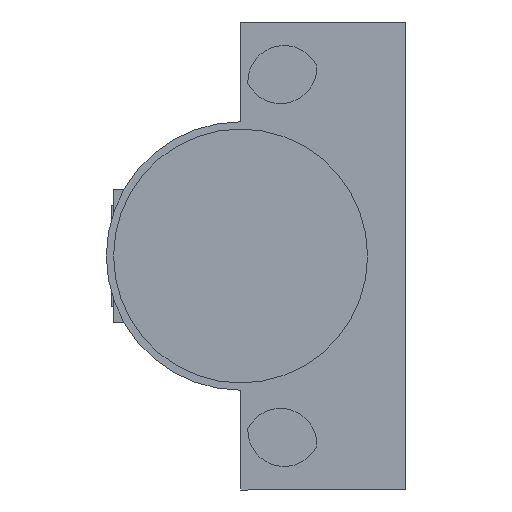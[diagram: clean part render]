
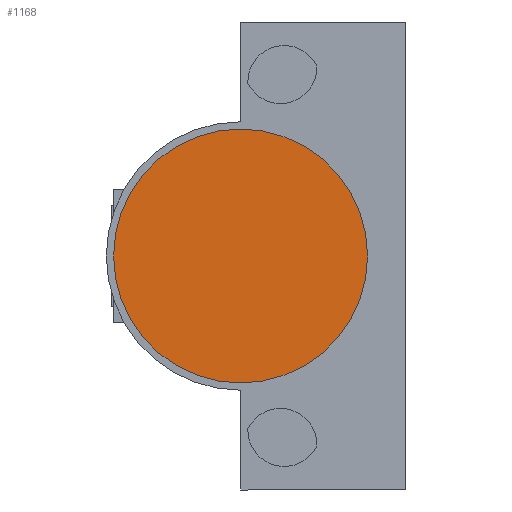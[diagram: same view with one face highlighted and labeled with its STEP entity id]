
A CAD part, front view. The second image highlights one B-rep face of the part: STEP entity #1168.
In plain terms, the highlighted planar face has unit normal (0, -1, 0).
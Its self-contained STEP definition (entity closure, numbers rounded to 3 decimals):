
#174 = EDGE_CURVE ( 'NONE', #708, #816, #1693, .T. ) ;
#537 = PLANE ( 'NONE',  #1104 ) ;
#548 = DIRECTION ( 'NONE',  ( 1., 0., 0. ) ) ;
#552 = DIRECTION ( 'NONE',  ( 0., -1., 0. ) ) ;
#592 = CARTESIAN_POINT ( 'NONE',  ( 21.5, -51.1, 0. ) ) ;
#641 = CARTESIAN_POINT ( 'NONE',  ( 39., -51.1, 0. ) ) ;
#708 = VERTEX_POINT ( 'NONE', #929 ) ;
#751 = CIRCLE ( 'NONE', #1388, 17.5 ) ;
#816 = VERTEX_POINT ( 'NONE', #641 ) ;
#890 = ORIENTED_EDGE ( 'NONE', *, *, #1266, .T. ) ;
#929 = CARTESIAN_POINT ( 'NONE',  ( 4., -51.1, 0. ) ) ;
#1027 = AXIS2_PLACEMENT_3D ( 'NONE', #1461, #1470, #1453 ) ;
#1104 = AXIS2_PLACEMENT_3D ( 'NONE', #592, #552, #548 ) ;
#1168 = ADVANCED_FACE ( 'NONE', ( #1246 ), #537, .T. ) ;
#1246 = FACE_OUTER_BOUND ( 'NONE', #1352, .T. ) ;
#1266 = EDGE_CURVE ( 'NONE', #816, #708, #751, .T. ) ;
#1352 = EDGE_LOOP ( 'NONE', ( #1682, #890 ) ) ;
#1388 = AXIS2_PLACEMENT_3D ( 'NONE', #1611, #1599, #1589 ) ;
#1453 = DIRECTION ( 'NONE',  ( 1., 0., 0. ) ) ;
#1461 = CARTESIAN_POINT ( 'NONE',  ( 21.5, -51.1, 0. ) ) ;
#1470 = DIRECTION ( 'NONE',  ( 0., -1., 0. ) ) ;
#1589 = DIRECTION ( 'NONE',  ( 1., 0., 0. ) ) ;
#1599 = DIRECTION ( 'NONE',  ( 0., -1., 0. ) ) ;
#1611 = CARTESIAN_POINT ( 'NONE',  ( 21.5, -51.1, 0. ) ) ;
#1682 = ORIENTED_EDGE ( 'NONE', *, *, #174, .T. ) ;
#1693 = CIRCLE ( 'NONE', #1027, 17.5 ) ;
